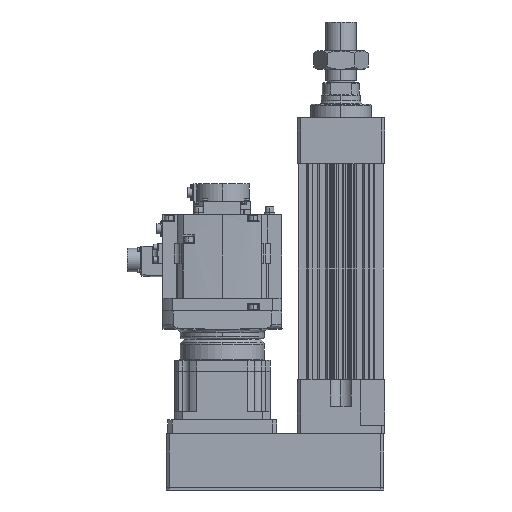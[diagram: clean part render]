
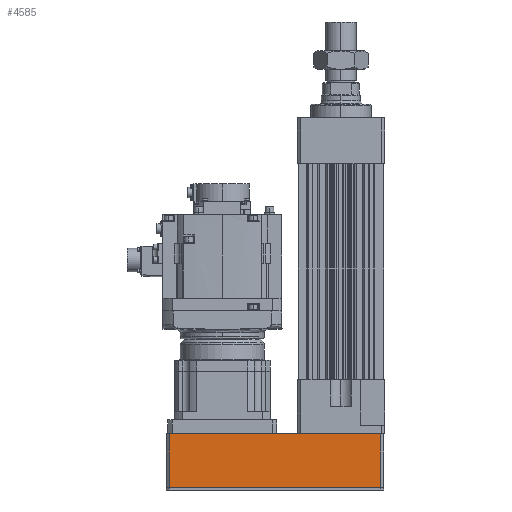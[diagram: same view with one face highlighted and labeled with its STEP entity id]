
A CAD part, left-side view. The second image highlights one B-rep face of the part: STEP entity #4585.
In plain terms, the highlighted planar face has unit normal (-1, 0, 0).
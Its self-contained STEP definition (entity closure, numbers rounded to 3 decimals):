
#171 = CARTESIAN_POINT ( 'NONE',  ( -63.5, 63.5, 81. ) ) ;
#174 = LINE ( 'NONE', #44311, #26470 ) ;
#1359 = CARTESIAN_POINT ( 'NONE',  ( -63.5, 63.5, 0.5 ) ) ;
#2284 = ORIENTED_EDGE ( 'NONE', *, *, #32031, .T. ) ;
#2535 = CARTESIAN_POINT ( 'NONE',  ( -63.5, 59., 80.5 ) ) ;
#3911 = PLANE ( 'NONE',  #5343 ) ;
#4291 = DIRECTION ( 'NONE',  ( 0., 1., 0. ) ) ;
#4585 = ADVANCED_FACE ( 'NONE', ( #18819 ), #3911, .F. ) ;
#5343 = AXIS2_PLACEMENT_3D ( 'NONE', #171, #21643, #4291 ) ;
#7153 = VECTOR ( 'NONE', #31604, 1000. ) ;
#9274 = DIRECTION ( 'NONE',  ( 0., 0., -1. ) ) ;
#9868 = VECTOR ( 'NONE', #43123, 1000. ) ;
#14800 = EDGE_CURVE ( 'NONE', #35698, #39462, #174, .T. ) ;
#16786 = CARTESIAN_POINT ( 'NONE',  ( -63.5, 59., 0.5 ) ) ;
#17714 = CARTESIAN_POINT ( 'NONE',  ( -63.5, -254.5, 0.5 ) ) ;
#17949 = LINE ( 'NONE', #20858, #9868 ) ;
#18819 = FACE_OUTER_BOUND ( 'NONE', #41233, .T. ) ;
#20858 = CARTESIAN_POINT ( 'NONE',  ( -63.5, 59., 80.5 ) ) ;
#21643 = DIRECTION ( 'NONE',  ( 1., 0., 0. ) ) ;
#21745 = LINE ( 'NONE', #44880, #25824 ) ;
#23765 = VERTEX_POINT ( 'NONE', #36604 ) ;
#25824 = VECTOR ( 'NONE', #45428, 1000. ) ;
#26470 = VECTOR ( 'NONE', #9274, 1000. ) ;
#31604 = DIRECTION ( 'NONE',  ( 0., -1., 0. ) ) ;
#32031 = EDGE_CURVE ( 'NONE', #39462, #52801, #46224, .T. ) ;
#34100 = ORIENTED_EDGE ( 'NONE', *, *, #46301, .T. ) ;
#35698 = VERTEX_POINT ( 'NONE', #2535 ) ;
#36604 = CARTESIAN_POINT ( 'NONE',  ( -63.5, -254.5, 80.5 ) ) ;
#39462 = VERTEX_POINT ( 'NONE', #16786 ) ;
#41233 = EDGE_LOOP ( 'NONE', ( #50691, #2284, #52348, #34100 ) ) ;
#43123 = DIRECTION ( 'NONE',  ( 0., 1., 0. ) ) ;
#44311 = CARTESIAN_POINT ( 'NONE',  ( -63.5, 59., 81. ) ) ;
#44880 = CARTESIAN_POINT ( 'NONE',  ( -63.5, -254.5, 81. ) ) ;
#45428 = DIRECTION ( 'NONE',  ( 0., 0., 1. ) ) ;
#46224 = LINE ( 'NONE', #1359, #7153 ) ;
#46301 = EDGE_CURVE ( 'NONE', #23765, #35698, #17949, .T. ) ;
#48790 = EDGE_CURVE ( 'NONE', #52801, #23765, #21745, .T. ) ;
#50691 = ORIENTED_EDGE ( 'NONE', *, *, #14800, .T. ) ;
#52348 = ORIENTED_EDGE ( 'NONE', *, *, #48790, .T. ) ;
#52801 = VERTEX_POINT ( 'NONE', #17714 ) ;
